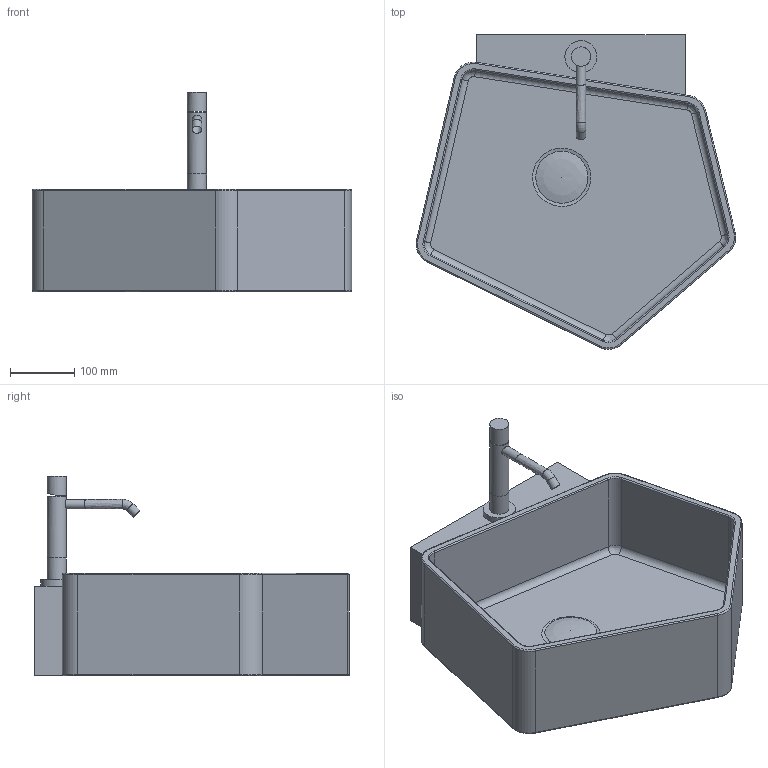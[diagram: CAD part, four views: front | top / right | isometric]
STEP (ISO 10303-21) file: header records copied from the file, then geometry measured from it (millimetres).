
FILE_DESCRIPTION(/* description */ (''),/* implementation_level */ '2;1');
FILE_NAME(/* name */ 'KAML',/* time_stamp */ '2024-10-07T11:07:31+02:00',/* author */ (''),/* organization */ (''),/* preprocessor_version */ 'ST-DEVELOPER v16.5',/* originating_system */ 'Rhino 7.27',/* authorisation */ '');
FILE_SCHEMA (('CONFIG_CONTROL_DESIGN'));
Length unit declared in the file: millimetre
Products named in the file (1): Document
Bounding box: 498.63 x 491.09 x 311.77 mm (x, y, z)
Volume: 8876627 mm3; surface area: 846481.5 mm2
Topology: 2 solids, 5 shells, 84 faces, 192 edges, 113 vertices
Faces by surface type: cylinder 36, bspline 28, plane 20
Full cylindrical faces by diameter (mm): 15 x1, 30 x3, 50 x1
Entity records: 2713 total; most frequent: CARTESIAN_POINT 1474, ORIENTED_EDGE 366, EDGE_CURVE 186, VERTEX_POINT 109, EDGE_LOOP 88, ADVANCED_FACE 84, FACE_OUTER_BOUND 84, DIRECTION 64
